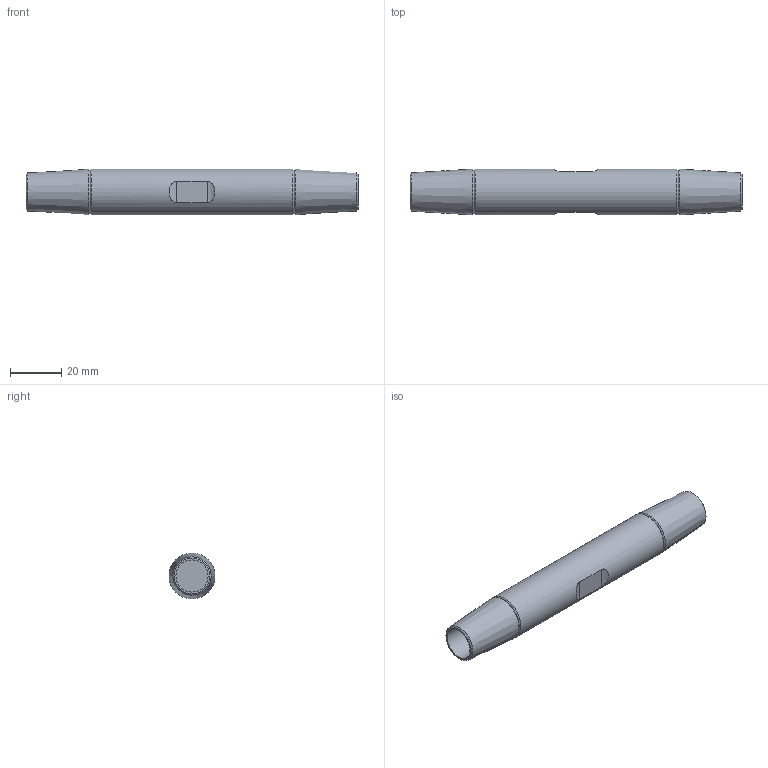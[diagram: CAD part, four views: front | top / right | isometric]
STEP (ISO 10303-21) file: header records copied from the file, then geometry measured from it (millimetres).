
FILE_DESCRIPTION(/* description */ (''),/* implementation_level */ '2;1');
FILE_NAME(/* name */ 'G:\Engineering\700 CAD\Internet-PX-1-step-igs-dxf\520-MUF-Arbeitsdateien\520-012-MUF.stp',/* time_stamp */ '2020-06-30T13:10:12+02:00',/* author */ ('schwarz'),/* organization */ (''),/* preprocessor_version */ 'ST-DEVELOPER v16.1',/* originating_system */ 'Autodesk Inventor 2016',/* authorisation */ '');
FILE_SCHEMA (('AUTOMOTIVE_DESIGN { 1 0 10303 214 3 1 1 }'));
Length unit declared in the file: centimetre
Products named in the file (1): Zusammenbau Muffe 520 012 Kunde
Bounding box: 130 x 18 x 18 mm (x, y, z)
Volume: 26090.4 mm3; surface area: 8978.9 mm2
Topology: 1 solids, 1 shells, 21 faces, 42 edges, 26 vertices
Faces by surface type: cone 8, cylinder 7, plane 6
Full cylindrical faces by diameter (mm): 12.6 x2, 18 x1
Entity records: 613 total; most frequent: CARTESIAN_POINT 166, DIRECTION 80, ORIENTED_EDGE 60, EDGE_LOOP 36, AXIS2_PLACEMENT_3D 36, EDGE_CURVE 30, VERTEX_POINT 26, STYLED_ITEM 22
